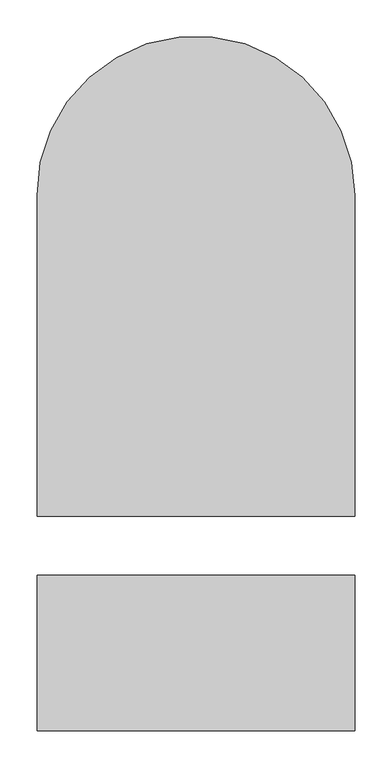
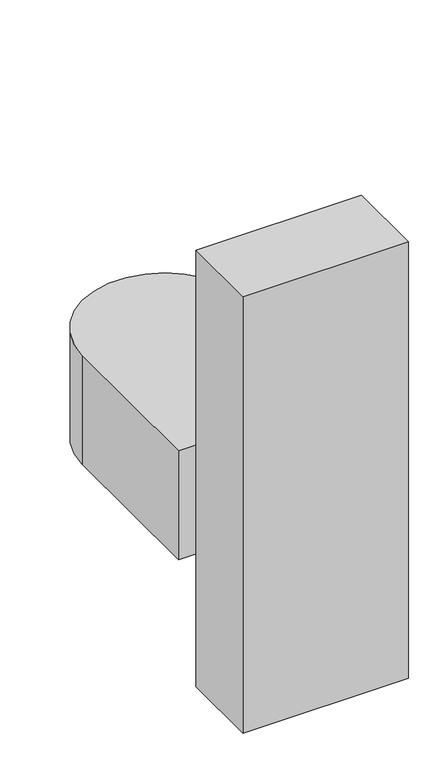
"""IFC4 building model written with IfcOpenShell, lengths in millimetres: flow terminal geometry, SP_унитаз подвесной : SP_унитаз подвесной."""

from ifc_helpers import new_model, si_unit, point, frame, frame_2d, origin, origin_with_axes, place, context, project, spatial, polyline, circle_curve, trimmed, segment, composite_curve, outline, extrude, source, transform, mapped, element, save


def flow_terminal_5cad07d8(model_context):
    return source(origin(), model_context, "Body", "SweptSolid", [
        extrude(outline(composite_curve([segment(polyline([(215.0, 433.7931803), (215.0, 0.0), (-215.0, 0.0), (-215.0, 433.7931803)]), True, "CONTINUOUS"), segment(trimmed(circle_curve(frame_2d((0.0, 433.7931803)), 215.0), [point((-215.0, 433.7931803))], [point((215.0, 433.7931803))], False, "CARTESIAN"), True, "CONTINUOUS")], self_intersect=False)), frame((0.0, 0.0, 300.0), z_axis=(0.0, 0.0, 1.0), x_axis=(1.0, 0.0, 0.0)), (0.0, 0.0, 1.0), 300.0),
        extrude(outline(polyline([(215.0, -80.0), (215.0, -290.0), (-215.0, -290.0), (-215.0, -80.0), (215.0, -80.0)])), origin_with_axes(), (0.0, 0.0, 1.0), 1200.0),
    ])


if __name__ == "__main__":
    model = new_model("IFC4")
    model_context = context("Model", 3, world=origin())
    ifc_project = project(units=[si_unit("LENGTHUNIT", "METRE", prefix="MILLI")], contexts=[model_context])
    site = spatial("IfcSite", under=ifc_project)
    building = spatial("IfcBuilding", under=site)
    placement = place(None, origin())
    flow_terminal_shape = flow_terminal_5cad07d8(model_context)
    element("IfcFlowTerminal", 1, ObjectType="SP_унитаз подвесной : SP_унитаз подвесной", at=placement, inside=building, context=model_context, shape_type="MappedRepresentation", body=[
        mapped(flow_terminal_shape, transform((0.0, 0.0, 0.0), x_axis=(1.0, 0.0, 0.0), y_axis=(0.0, 1.0, 0.0), z_axis=(0.0, 0.0, 1.0))),
    ])
    save(model, "model.ifc")
